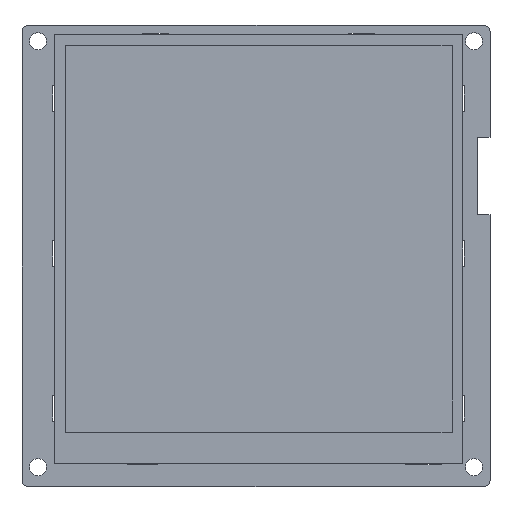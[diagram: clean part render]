
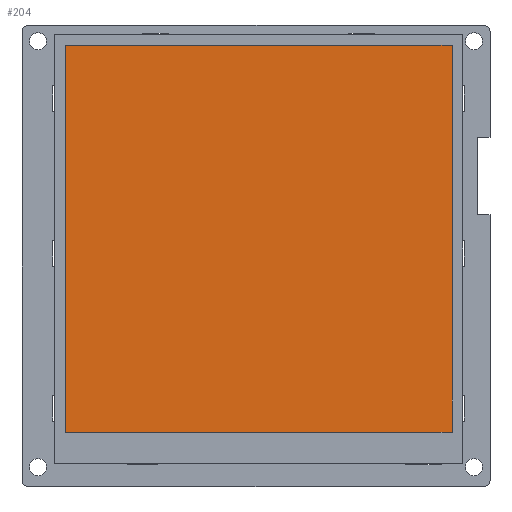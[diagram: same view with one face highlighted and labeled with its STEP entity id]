
A CAD part, top view. The second image highlights one B-rep face of the part: STEP entity #204.
In plain terms, the highlighted planar face has unit normal (0, 0, 1).
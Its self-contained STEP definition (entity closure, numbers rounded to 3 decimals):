
#54=DIRECTION('',(0.,-1.,0.));
#55=VECTOR('',#54,82.);
#56=CARTESIAN_POINT('',(-38.99,41.,2.15));
#57=LINE('',#56,#55);
#58=DIRECTION('',(-1.,0.,0.));
#59=VECTOR('',#58,77.98);
#60=CARTESIAN_POINT('',(38.99,41.,2.15));
#61=LINE('',#60,#59);
#62=DIRECTION('',(0.,1.,0.));
#63=VECTOR('',#62,82.);
#64=CARTESIAN_POINT('',(38.99,-41.,2.15));
#65=LINE('',#64,#63);
#66=DIRECTION('',(1.,0.,0.));
#67=VECTOR('',#66,77.98);
#68=CARTESIAN_POINT('',(-38.99,-41.,2.15));
#69=LINE('',#68,#67);
#78=CARTESIAN_POINT('',(-38.99,41.,2.15));
#79=CARTESIAN_POINT('',(-38.99,-41.,2.15));
#80=VERTEX_POINT('',#78);
#81=VERTEX_POINT('',#79);
#82=CARTESIAN_POINT('',(38.99,-41.,2.15));
#83=VERTEX_POINT('',#82);
#84=CARTESIAN_POINT('',(38.99,41.,2.15));
#85=VERTEX_POINT('',#84);
#193=CARTESIAN_POINT('',(0.,0.,2.15));
#194=DIRECTION('',(0.,0.,1.));
#195=DIRECTION('',(1.,0.,0.));
#196=AXIS2_PLACEMENT_3D('',#193,#194,#195);
#197=PLANE('',#196);
#198=ORIENTED_EDGE('',*,*,#117,.F.);
#199=ORIENTED_EDGE('',*,*,#139,.F.);
#200=ORIENTED_EDGE('',*,*,#160,.F.);
#201=ORIENTED_EDGE('',*,*,#180,.F.);
#202=EDGE_LOOP('',(#198,#199,#200,#201));
#203=FACE_OUTER_BOUND('',#202,.F.);
#117=EDGE_CURVE('',#80,#81,#57,.T.);
#139=EDGE_CURVE('',#85,#80,#61,.T.);
#160=EDGE_CURVE('',#83,#85,#65,.T.);
#180=EDGE_CURVE('',#81,#83,#69,.T.);
#204=ADVANCED_FACE('',(#203),#197,.T.);
